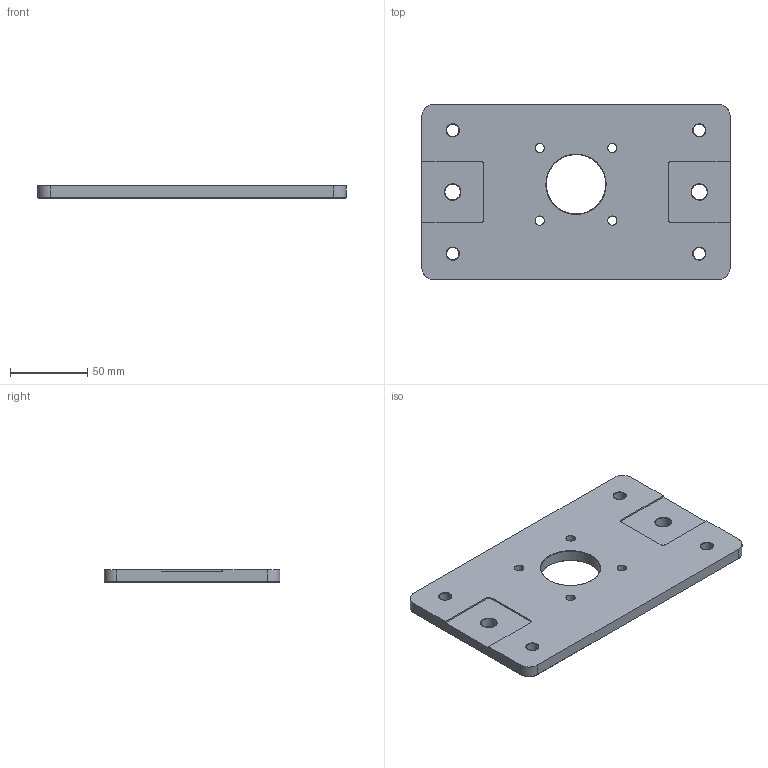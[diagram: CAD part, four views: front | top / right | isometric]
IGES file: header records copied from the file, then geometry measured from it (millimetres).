
Global section: file name: /Users/davidness/Desktop/routerGantryPlates.igs; native system: Rhinoceros ( Nov  5 2012 ); preprocessor: Trout Lake IGES 012 Nov  5 2012; date: 121214.134834; units: millimetre
Bounding box: 200 x 114 x 8 mm (x, y, z)
Surface area: 49815.7 mm2 (no closed solid volume)
Topology: 0 solids, 0 shells, 55 faces, 755 edges, 724 vertices
Faces by surface type: bspline 55
